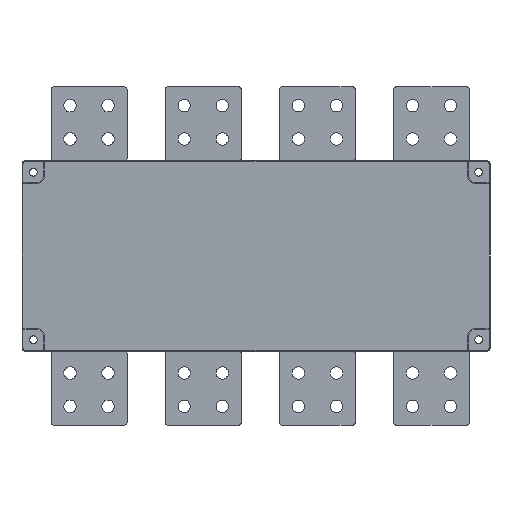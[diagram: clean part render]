
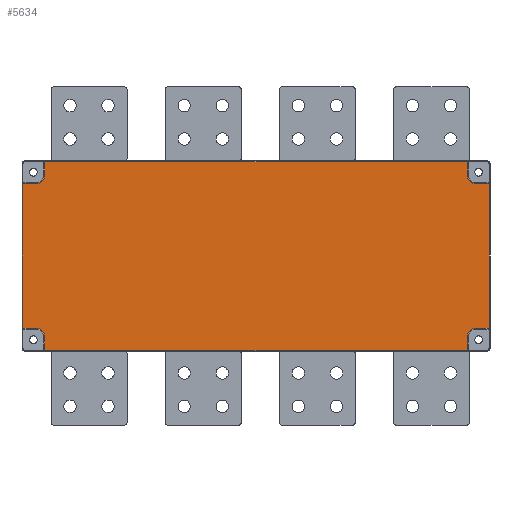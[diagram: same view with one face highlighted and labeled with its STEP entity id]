
A CAD part, front view. The second image highlights one B-rep face of the part: STEP entity #5634.
In plain terms, the highlighted planar face has unit normal (0, -1, 0).
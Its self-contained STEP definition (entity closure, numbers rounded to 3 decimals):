
#2636=DIRECTION('',(1.,0.,0.));
#2637=VECTOR('',#2636,444.);
#2638=CARTESIAN_POINT('',(-164.,0.,-99.));
#2639=LINE('',#2638,#2637);
#2732=CARTESIAN_POINT('',(-173.,0.,-85.));
#2733=DIRECTION('',(0.,-1.,0.));
#2734=DIRECTION('',(1.,0.,0.));
#2735=AXIS2_PLACEMENT_3D('',#2732,#2733,#2734);
#2737=DIRECTION('',(-1.,0.,0.));
#2738=VECTOR('',#2737,14.);
#2739=CARTESIAN_POINT('',(-173.,0.,-76.));
#2740=LINE('',#2739,#2738);
#2741=CARTESIAN_POINT('',(-173.,0.,85.));
#2742=DIRECTION('',(0.,-1.,0.));
#2743=DIRECTION('',(0.,0.,-1.));
#2744=AXIS2_PLACEMENT_3D('',#2741,#2742,#2743);
#2746=DIRECTION('',(0.,0.,1.));
#2747=VECTOR('',#2746,14.);
#2748=CARTESIAN_POINT('',(-164.,0.,85.));
#2749=LINE('',#2748,#2747);
#2750=DIRECTION('',(0.,0.,-1.));
#2751=VECTOR('',#2750,14.);
#2752=CARTESIAN_POINT('',(280.,0.,99.));
#2753=LINE('',#2752,#2751);
#2754=CARTESIAN_POINT('',(289.,0.,85.));
#2755=DIRECTION('',(0.,-1.,0.));
#2756=DIRECTION('',(-1.,0.,0.));
#2757=AXIS2_PLACEMENT_3D('',#2754,#2755,#2756);
#2759=DIRECTION('',(-1.,0.,0.));
#2760=VECTOR('',#2759,14.);
#2761=CARTESIAN_POINT('',(303.,0.,-76.));
#2762=LINE('',#2761,#2760);
#2763=CARTESIAN_POINT('',(289.,0.,-85.));
#2764=DIRECTION('',(0.,-1.,0.));
#2765=DIRECTION('',(0.,0.,1.));
#2766=AXIS2_PLACEMENT_3D('',#2763,#2764,#2765);
#2768=DIRECTION('',(0.,0.,-1.));
#2769=VECTOR('',#2768,14.);
#2770=CARTESIAN_POINT('',(280.,0.,-85.));
#2771=LINE('',#2770,#2769);
#2772=DIRECTION('',(0.,0.,-1.));
#2773=VECTOR('',#2772,14.);
#2774=CARTESIAN_POINT('',(-164.,0.,-85.));
#2775=LINE('',#2774,#2773);
#2885=CARTESIAN_POINT('',(-164.,0.,-99.));
#3739=DIRECTION('',(-1.,0.,0.));
#3740=VECTOR('',#3739,14.);
#3741=CARTESIAN_POINT('',(303.,0.,76.));
#3742=LINE('',#3741,#3740);
#3751=DIRECTION('',(0.,0.,1.));
#3752=VECTOR('',#3751,152.);
#3753=CARTESIAN_POINT('',(303.,0.,-76.));
#3754=LINE('',#3753,#3752);
#3992=DIRECTION('',(-1.,0.,0.));
#3993=VECTOR('',#3992,444.);
#3994=CARTESIAN_POINT('',(280.,0.,99.));
#3995=LINE('',#3994,#3993);
#4369=DIRECTION('',(-1.,0.,0.));
#4370=VECTOR('',#4369,14.);
#4371=CARTESIAN_POINT('',(-173.,0.,76.));
#4372=LINE('',#4371,#4370);
#4393=DIRECTION('',(0.,0.,-1.));
#4394=VECTOR('',#4393,152.);
#4395=CARTESIAN_POINT('',(-187.,0.,76.));
#4396=LINE('',#4395,#4394);
#4856=VERTEX_POINT('',#2885);
#4857=CARTESIAN_POINT('',(280.,0.,-99.));
#4858=VERTEX_POINT('',#4857);
#4929=CARTESIAN_POINT('',(280.,0.,-85.));
#4930=VERTEX_POINT('',#4929);
#4933=CARTESIAN_POINT('',(-164.,0.,-85.));
#4934=VERTEX_POINT('',#4933);
#4935=CARTESIAN_POINT('',(-173.,0.,-76.));
#4936=VERTEX_POINT('',#4935);
#4937=CARTESIAN_POINT('',(-187.,0.,-76.));
#4938=VERTEX_POINT('',#4937);
#4939=CARTESIAN_POINT('',(-187.,0.,76.));
#4940=VERTEX_POINT('',#4939);
#4941=CARTESIAN_POINT('',(-173.,0.,76.));
#4942=VERTEX_POINT('',#4941);
#4943=CARTESIAN_POINT('',(-164.,0.,85.));
#4944=VERTEX_POINT('',#4943);
#4945=CARTESIAN_POINT('',(-164.,0.,99.));
#4946=VERTEX_POINT('',#4945);
#4947=CARTESIAN_POINT('',(280.,0.,99.));
#4948=VERTEX_POINT('',#4947);
#4949=CARTESIAN_POINT('',(280.,0.,85.));
#4950=VERTEX_POINT('',#4949);
#4951=CARTESIAN_POINT('',(289.,0.,76.));
#4952=VERTEX_POINT('',#4951);
#4953=CARTESIAN_POINT('',(303.,0.,76.));
#4954=VERTEX_POINT('',#4953);
#4955=CARTESIAN_POINT('',(303.,0.,-76.));
#4956=VERTEX_POINT('',#4955);
#4957=CARTESIAN_POINT('',(289.,0.,-76.));
#4958=VERTEX_POINT('',#4957);
#5597=CARTESIAN_POINT('',(0.,0.,0.));
#5598=DIRECTION('',(0.,1.,0.));
#5599=DIRECTION('',(1.,0.,0.));
#5600=AXIS2_PLACEMENT_3D('',#5597,#5598,#5599);
#5601=PLANE('',#5600);
#5602=ORIENTED_EDGE('',*,*,#5482,.F.);
#5604=ORIENTED_EDGE('',*,*,#5603,.F.);
#5606=ORIENTED_EDGE('',*,*,#5605,.T.);
#5608=ORIENTED_EDGE('',*,*,#5607,.T.);
#5610=ORIENTED_EDGE('',*,*,#5609,.F.);
#5612=ORIENTED_EDGE('',*,*,#5611,.F.);
#5614=ORIENTED_EDGE('',*,*,#5613,.T.);
#5616=ORIENTED_EDGE('',*,*,#5615,.T.);
#5618=ORIENTED_EDGE('',*,*,#5617,.F.);
#5620=ORIENTED_EDGE('',*,*,#5619,.T.);
#5622=ORIENTED_EDGE('',*,*,#5621,.T.);
#5624=ORIENTED_EDGE('',*,*,#5623,.F.);
#5626=ORIENTED_EDGE('',*,*,#5625,.F.);
#5628=ORIENTED_EDGE('',*,*,#5627,.T.);
#5630=ORIENTED_EDGE('',*,*,#5629,.T.);
#5631=ORIENTED_EDGE('',*,*,#5588,.T.);
#5632=EDGE_LOOP('',(#5602,#5604,#5606,#5608,#5610,#5612,#5614,#5616,#5618,#5620,
#5622,#5624,#5626,#5628,#5630,#5631));
#5633=FACE_OUTER_BOUND('',#5632,.F.);
#2736=CIRCLE('',#2735,9.);
#2745=CIRCLE('',#2744,9.);
#2758=CIRCLE('',#2757,9.);
#2767=CIRCLE('',#2766,9.);
#5482=EDGE_CURVE('',#4856,#4858,#2639,.T.);
#5588=EDGE_CURVE('',#4930,#4858,#2771,.T.);
#5603=EDGE_CURVE('',#4934,#4856,#2775,.T.);
#5605=EDGE_CURVE('',#4934,#4936,#2736,.T.);
#5607=EDGE_CURVE('',#4936,#4938,#2740,.T.);
#5609=EDGE_CURVE('',#4940,#4938,#4396,.T.);
#5611=EDGE_CURVE('',#4942,#4940,#4372,.T.);
#5613=EDGE_CURVE('',#4942,#4944,#2745,.T.);
#5615=EDGE_CURVE('',#4944,#4946,#2749,.T.);
#5617=EDGE_CURVE('',#4948,#4946,#3995,.T.);
#5619=EDGE_CURVE('',#4948,#4950,#2753,.T.);
#5621=EDGE_CURVE('',#4950,#4952,#2758,.T.);
#5623=EDGE_CURVE('',#4954,#4952,#3742,.T.);
#5625=EDGE_CURVE('',#4956,#4954,#3754,.T.);
#5627=EDGE_CURVE('',#4956,#4958,#2762,.T.);
#5629=EDGE_CURVE('',#4958,#4930,#2767,.T.);
#5634=ADVANCED_FACE('',(#5633),#5601,.F.);
